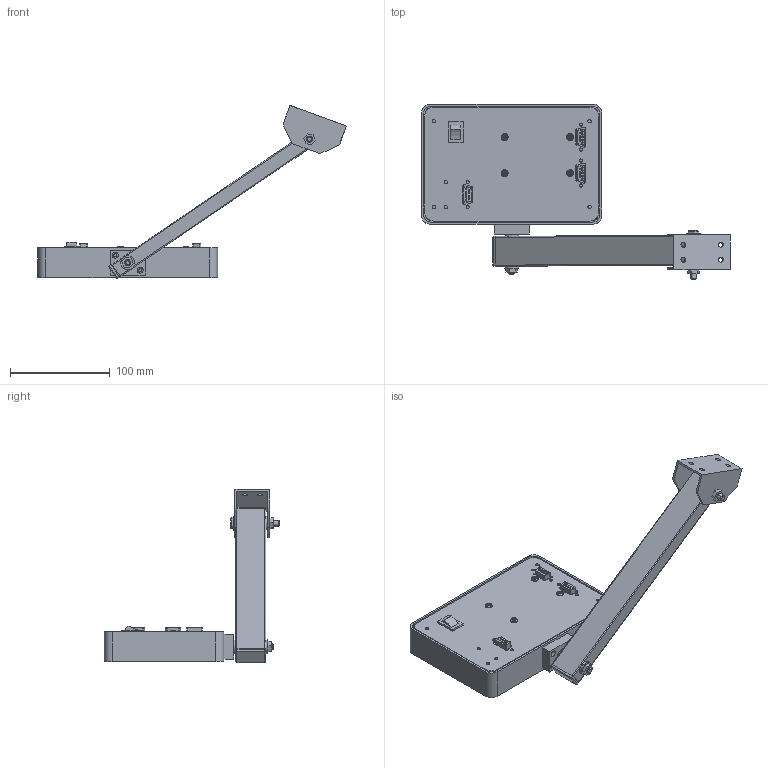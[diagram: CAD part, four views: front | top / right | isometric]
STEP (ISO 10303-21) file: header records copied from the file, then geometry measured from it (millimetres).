
FILE_DESCRIPTION (( 'STEP AP203' ), '1' );
FILE_NAME ('BC-2001_3001.STEP', '2017-10-05T18:35:41', ( '' ), ( '' ), 'SwSTEP 2.0', 'SolidWorks 2014', '' );
FILE_SCHEMA (( 'CONFIG_CONTROL_DESIGN' ));
Length unit declared in the file: millimetre
Products named in the file (18): polep pøední BC-2001 - new; upínací podložka; BC-2001_3001; rameno držáku; M6x45; upínací podložkaII; matka M6; vypínaè; držák upínacího šroubu; konektor; zadní èelo BC-2001; šroub M4x12; kotvení držáku; prùchodka pro M6; záslepka držáku; plexi BC-2001; t骴o JEKL 180x120; deska displejù
Assembly tree (34 placements, depth 2):
  BC-2001_3001
    t骴o JEKL 180x120
    deska displejù
    upínací podložka  x4
    šroub M4x12  x4
    upínací podložkaII  x4
    držák upínacího šroubu
    M6x45  x2
    rameno držáku
    záslepka držáku  x2
    prùchodka pro M6  x4
    matka M6  x2
    kotvení držáku
    plexi BC-2001
    polep pøední BC-2001 - new
    zadní èelo BC-2001
    konektor  x3
    vypínaè
Bounding box: 308.81 x 176 x 173.26 mm (x, y, z)
Volume: 248651.2 mm3; surface area: 241156.3 mm2
Topology: 34 solids, 34 shells, 1472 faces, 3512 edges, 2210 vertices
Faces by surface type: plane 645, cylinder 568, torus 174, bspline 65, cone 12, sphere 8
Entity records: 32550 total; most frequent: CARTESIAN_POINT 8107, DIRECTION 4574, ORIENTED_EDGE 4528, EDGE_CURVE 2264, AXIS2_PLACEMENT_3D 1575, VERTEX_POINT 1462, LINE 1424, VECTOR 1424
